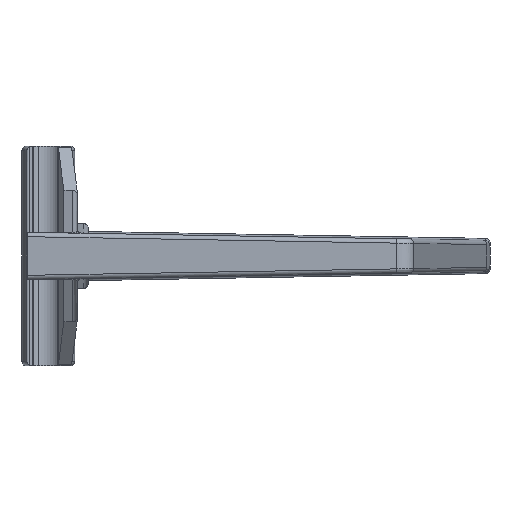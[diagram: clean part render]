
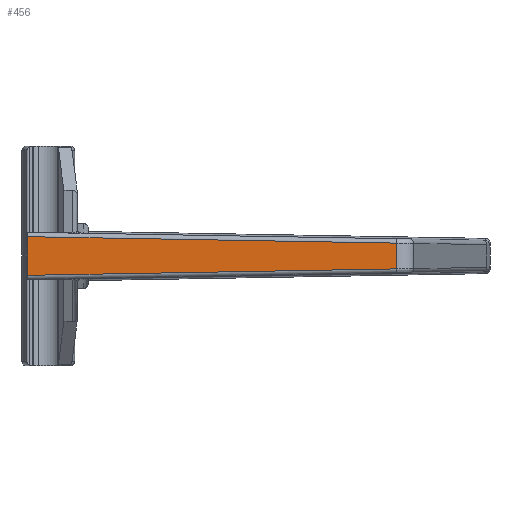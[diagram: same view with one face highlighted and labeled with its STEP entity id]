
A CAD part, front view. The second image highlights one B-rep face of the part: STEP entity #456.
In plain terms, the highlighted planar face has unit normal (0, -1, 0).
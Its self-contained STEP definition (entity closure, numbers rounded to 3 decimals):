
#214 = EDGE_LOOP ( 'NONE', ( #3997, #640, #300, #269 ) ) ;
#269 = ORIENTED_EDGE ( 'NONE', *, *, #465, .T. ) ;
#300 = ORIENTED_EDGE ( 'NONE', *, *, #493, .F. ) ;
#456 = ADVANCED_FACE ( 'NONE', ( #1750 ), #1747, .T. ) ;
#461 = EDGE_CURVE ( 'NONE', #5525, #486, #1736, .T. ) ;
#465 = EDGE_CURVE ( 'NONE', #487, #5528, #1732, .T. ) ;
#486 = VERTEX_POINT ( 'NONE', #1816 ) ;
#487 = VERTEX_POINT ( 'NONE', #1815 ) ;
#493 = EDGE_CURVE ( 'NONE', #487, #486, #1803, .T. ) ;
#640 = ORIENTED_EDGE ( 'NONE', *, *, #461, .T. ) ;
#1732 = LINE ( 'NONE', #1792, #1791 ) ;
#1733 = DIRECTION ( 'NONE',  ( 1., 0., 0.017 ) ) ;
#1734 = VECTOR ( 'NONE', #1733, 1000. ) ;
#1735 = CARTESIAN_POINT ( 'NONE',  ( -9.859, 0., -4.5 ) ) ;
#1736 = LINE ( 'NONE', #1735, #1734 ) ;
#1739 = DIRECTION ( 'NONE',  ( 0., 0., -1. ) ) ;
#1740 = DIRECTION ( 'NONE',  ( 0., -1., 0. ) ) ;
#1747 = PLANE ( 'NONE',  #1749 ) ;
#1748 = CARTESIAN_POINT ( 'NONE',  ( -10., 0., 3.56 ) ) ;
#1749 = AXIS2_PLACEMENT_3D ( 'NONE', #1748, #1740, #1739 ) ;
#1750 = FACE_OUTER_BOUND ( 'NONE', #214, .T. ) ;
#1790 = DIRECTION ( 'NONE',  ( -1., 0., 0.017 ) ) ;
#1791 = VECTOR ( 'NONE', #1790, 1000. ) ;
#1792 = CARTESIAN_POINT ( 'NONE',  ( -9.984, 0., 4.502 ) ) ;
#1800 = DIRECTION ( 'NONE',  ( 0., 0., -1. ) ) ;
#1801 = VECTOR ( 'NONE', #1800, 1000. ) ;
#1802 = CARTESIAN_POINT ( 'NONE',  ( 79.989, 0., 207.647 ) ) ;
#1803 = LINE ( 'NONE', #1802, #1801 ) ;
#1815 = CARTESIAN_POINT ( 'NONE',  ( 79.989, 0., 2.932 ) ) ;
#1816 = CARTESIAN_POINT ( 'NONE',  ( 79.989, 0., -2.932 ) ) ;
#3997 = ORIENTED_EDGE ( 'NONE', *, *, #5527, .T. ) ;
#4968 = CARTESIAN_POINT ( 'NONE',  ( -3.9, 0., -4.396 ) ) ;
#4990 = CARTESIAN_POINT ( 'NONE',  ( -3.9, 0., 4.396 ) ) ;
#4991 = DIRECTION ( 'NONE',  ( 0., 0., -1. ) ) ;
#4992 = VECTOR ( 'NONE', #4991, 1000. ) ;
#4993 = CARTESIAN_POINT ( 'NONE',  ( -3.9, 0., 207.647 ) ) ;
#4994 = LINE ( 'NONE', #4993, #4992 ) ;
#5525 = VERTEX_POINT ( 'NONE', #4968 ) ;
#5527 = EDGE_CURVE ( 'NONE', #5528, #5525, #4994, .T. ) ;
#5528 = VERTEX_POINT ( 'NONE', #4990 ) ;
